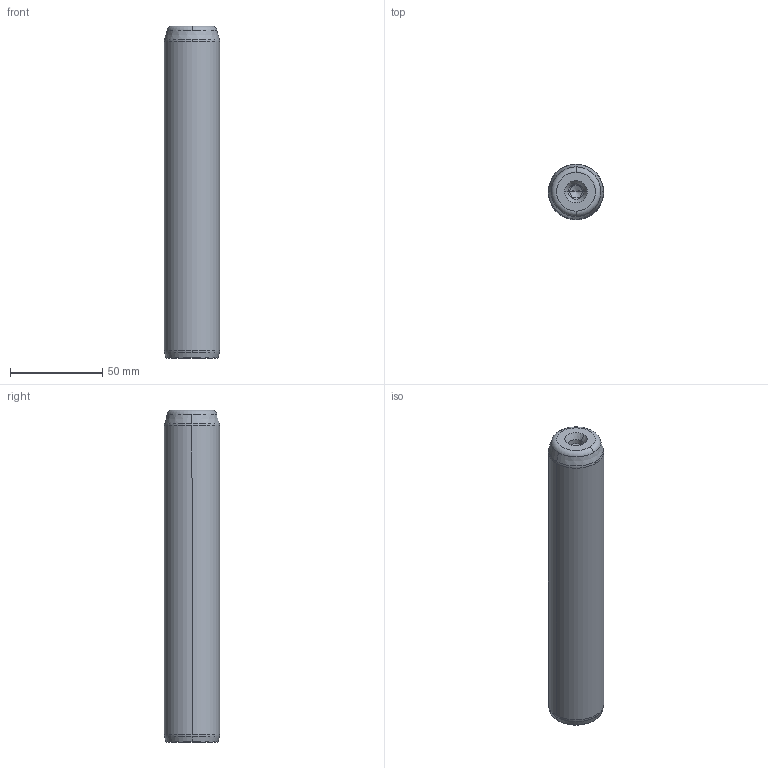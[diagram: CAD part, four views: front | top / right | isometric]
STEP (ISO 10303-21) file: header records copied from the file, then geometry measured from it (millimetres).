
FILE_DESCRIPTION((''),'2;1');
FILE_NAME('P10_030_180.stp','2008-12-23T14:59:35',(''),(''),'Mechanical Desktop 2009','Mechanical Desktop 2009',', , ');
FILE_SCHEMA(('CONFIG_CONTROL_DESIGN'));
Length unit declared in the file: millimetre
Products named in the file (5): Product; ProductAA; blmdl1; ProductA; blmdl1A
Assembly tree (2 placements, depth 3):
  Product
    ProductAA
      blmdl1
  ProductA
  blmdl1A
Bounding box: 30 x 30 x 180 mm (x, y, z)
Volume: 125080.7 mm3; surface area: 18547.3 mm2
Topology: 1 solids, 1 shells, 26 faces, 66 edges, 41 vertices
Faces by surface type: cone 10, torus 8, cylinder 6, plane 2
Entity records: 1012 total; most frequent: DIRECTION 170, CARTESIAN_POINT 134, ORIENTED_EDGE 128, AXIS2_PLACEMENT_3D 77, EDGE_CURVE 64, CIRCLE 48, VERTEX_POINT 41, EDGE_LOOP 27
